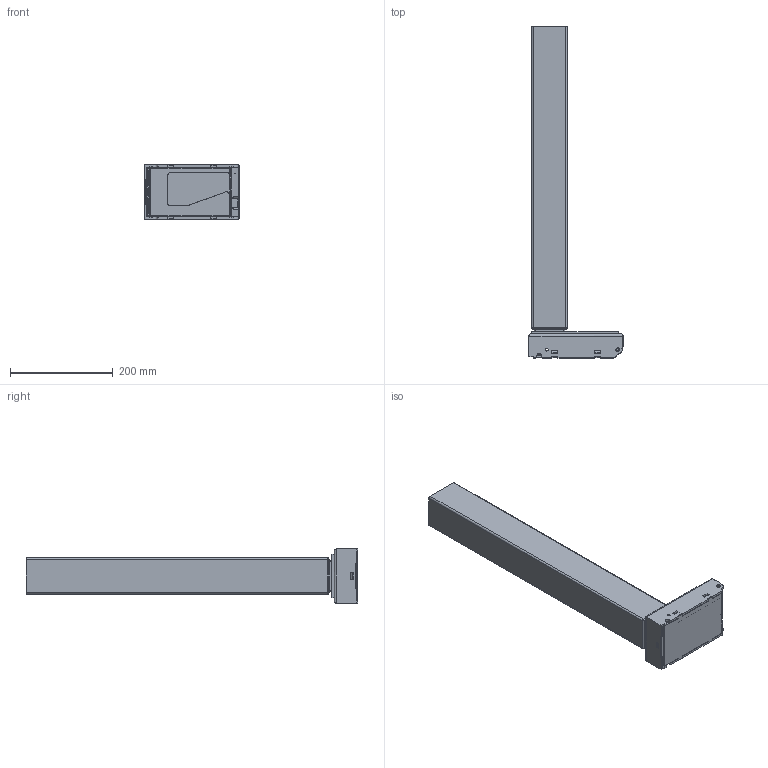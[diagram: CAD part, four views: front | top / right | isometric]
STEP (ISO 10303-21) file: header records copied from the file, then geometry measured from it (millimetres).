
FILE_DESCRIPTION (( 'STEP AP203' ), '1' );
FILE_NAME ('3D_TL13.STEP', '2020-05-11T03:41:23', ( '' ), ( '' ), 'SwSTEP 2.0', 'SolidWorks 2015', '' );
FILE_SCHEMA (( 'CONFIG_CONTROL_DESIGN' ));
Length unit declared in the file: millimetre
Products named in the file (1): 3D_TL13
Bounding box: 183 x 645 x 107 mm (x, y, z)
Volume: 833426.5 mm3; surface area: 718692.4 mm2
Topology: 4 solids, 4 shells, 1295 faces, 3189 edges, 1781 vertices
Faces by surface type: cylinder 582, plane 325, torus 152, bspline 123, sphere 93, cone 20
Entity records: 40071 total; most frequent: CARTESIAN_POINT 10719, DIRECTION 6308, ORIENTED_EDGE 6128, EDGE_CURVE 3064, AXIS2_PLACEMENT_3D 2408, VERTEX_POINT 1781, LINE 1492, VECTOR 1492
